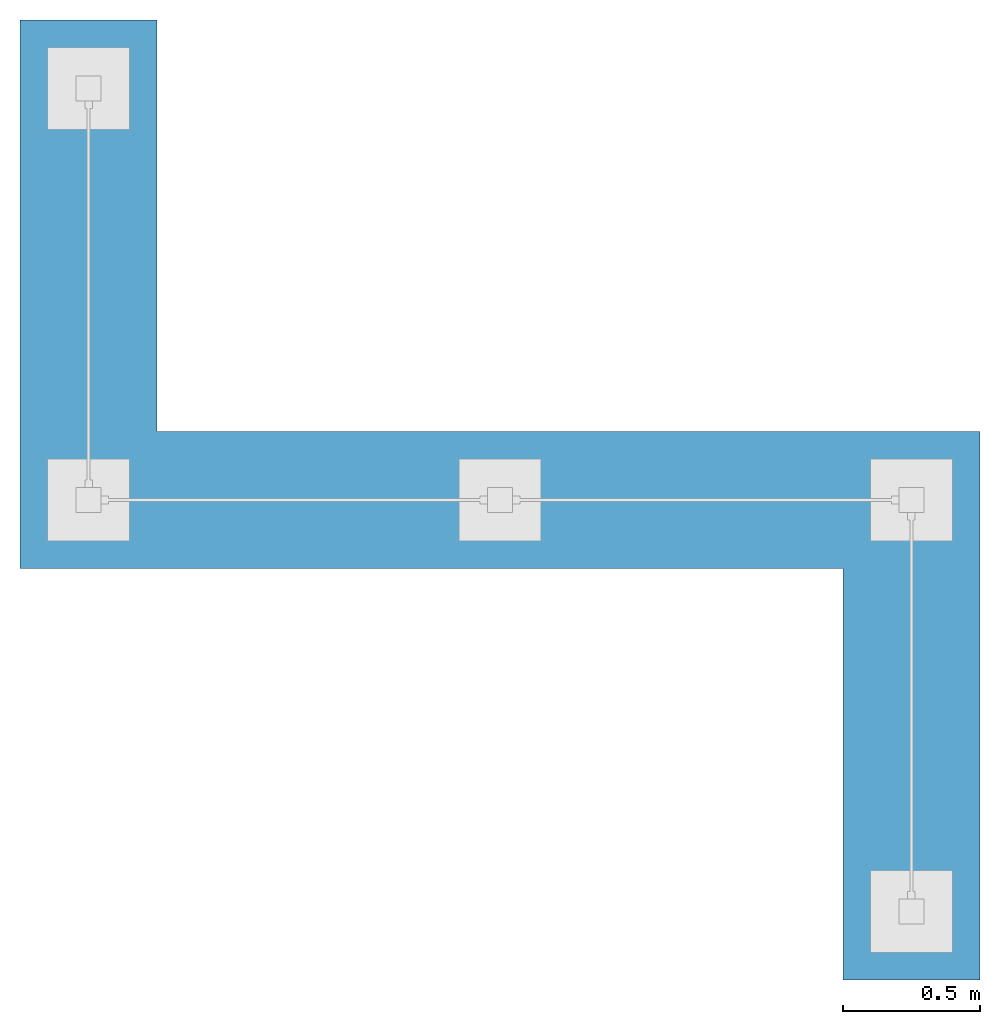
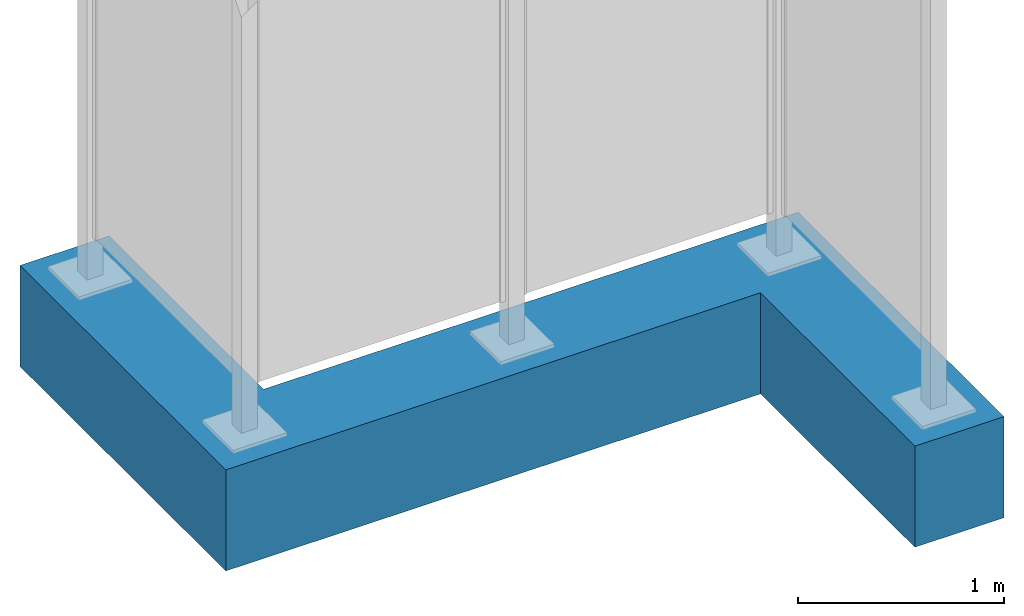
# One storey, part 1 of 2: 1 slab.
"""IFC4 building model written with IfcOpenShell, lengths in metres."""

from ifc_helpers import new_model, entity, si_unit, converted_unit, direction, frame, origin, place, context, subcontext, project, spatial, polyline, outline, extrude, material, type_object, element, save


model = new_model("IFC4")

# Units and contexts
model_context = context("Model", 3, precision=1e-05, world=origin(), true_north=direction((6.123031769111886e-17, 1.0)))
body_context = subcontext(model_context, "Body", "Model", "MODEL_VIEW")
ifc_project = project(units=[si_unit("LENGTHUNIT", "METRE"), converted_unit("PLANEANGLEUNIT", "DEGREE", entity("IfcPlaneAngleMeasure", 0.017453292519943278), si_unit("PLANEANGLEUNIT", "RADIAN"), dimensions=[0, 0, 0, 0, 0, 0, 0]), si_unit("AREAUNIT", "SQUARE_METRE")], contexts=[model_context])

# Site, building, storey
site_placement = place(None, origin())
site = spatial("IfcSite", under=ifc_project, at=site_placement, Name="Default", CompositionType="ELEMENT")
building_placement = place(site_placement, origin())
building = spatial("IfcBuilding", under=site, at=building_placement, CompositionType="ELEMENT")
storey_placement = place(building_placement, origin())
storey = spatial("IfcBuildingStorey", under=building, at=storey_placement, Name="DB_Bezugshoehe_max_Bahnsteigkante", CompositionType="ELEMENT", Elevation=0.0)

# Slab
ifc_material = material(Name="DB_Ortbeton", Category="DB_Beton")
slab_type = type_object("IfcSlabType", Name="DB_Windschutz_2-feldrig_S_Fundament:DB_Windschutz_2-feldrig_S_Fundament", PredefinedType="BASESLAB", material=ifc_material)
slab_placement = place(storey_placement, origin())
element("IfcSlab", 1, at=slab_placement, inside=storey, type_object=slab_type, Name="DB_Windschutz_2-feldrig_S_Fundament:DB_Windschutz_2-feldrig_S_Fundament", ObjectType="DB_Windschutz_2-feldrig_S_Fundament:DB_Windschutz_2-feldrig_S_Fundament", PredefinedType="BASESLAB", context=body_context, shape_type="SweptSolid", body=[
    extrude(outline(polyline([(-0.08799999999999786, 0.24999999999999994), (-1.7279999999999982, 0.24999999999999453), (-1.7279999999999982, -1.7499999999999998), (-1.227999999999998, -1.7499999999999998), (-1.227999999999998, -0.2500000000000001), (-0.0879999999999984, -0.2500000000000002), (1.7719999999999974, -0.24999999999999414), (1.7719999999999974, 1.7499999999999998), (1.2719999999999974, 1.7499999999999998), (1.2719999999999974, 0.24999999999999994), (-0.08799999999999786, 0.24999999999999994)])), frame((1.5220000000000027, 0.0, 0.0), z_axis=(0.0, 0.0, -1.0), x_axis=(-1.0, 0.0, 0.0)), (0.0, 0.0, -1.0), 0.5999999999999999),
])

save(model, "model.ifc")
